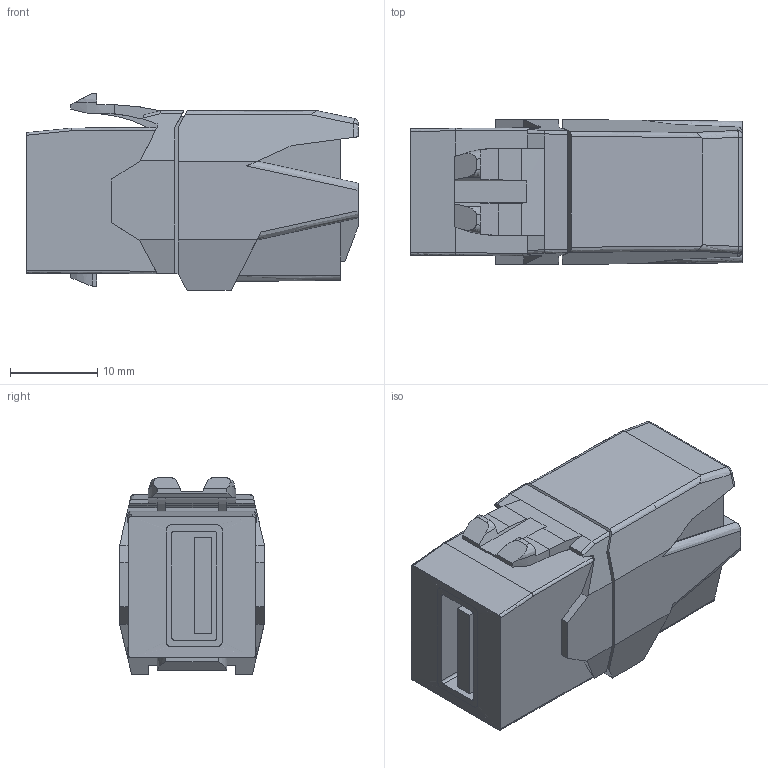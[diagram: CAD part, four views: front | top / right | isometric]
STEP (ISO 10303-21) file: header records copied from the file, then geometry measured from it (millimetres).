
FILE_DESCRIPTION( ('This file contains a STEP AP42 implementation' ,'as created by ZW3D STEP Interface translator.') ,'2;1' );
FILE_NAME( 'TB-029_210USB07N2WH_SD.stp' ,'26 330.15 438', (''), ('ZWCAD Software Co.'), 'Version 1.0', 'ZW3D to STEP translator', '' );
FILE_SCHEMA(('AUTOMOTIVE_DESIGN'));
Length unit declared in the file: millimetre
Products named in the file (2): 0; TB-029_210USB07N2WH_SD
Bounding box: 38 x 16.56 x 22.55 mm (x, y, z)
Volume: 9543 mm3; surface area: 4580.6 mm2
Topology: 1 solids, 1 shells, 186 faces, 520 edges, 342 vertices
Faces by surface type: bspline 186
Entity records: 8913 total; most frequent: CARTESIAN_POINT 5561, ORIENTED_EDGE 1040, B_SPLINE_CURVE_WITH_KNOTS 520, EDGE_CURVE 520, VERTEX_POINT 342, EDGE_LOOP 192, FACE_OUTER_BOUND 186, ADVANCED_FACE 186
